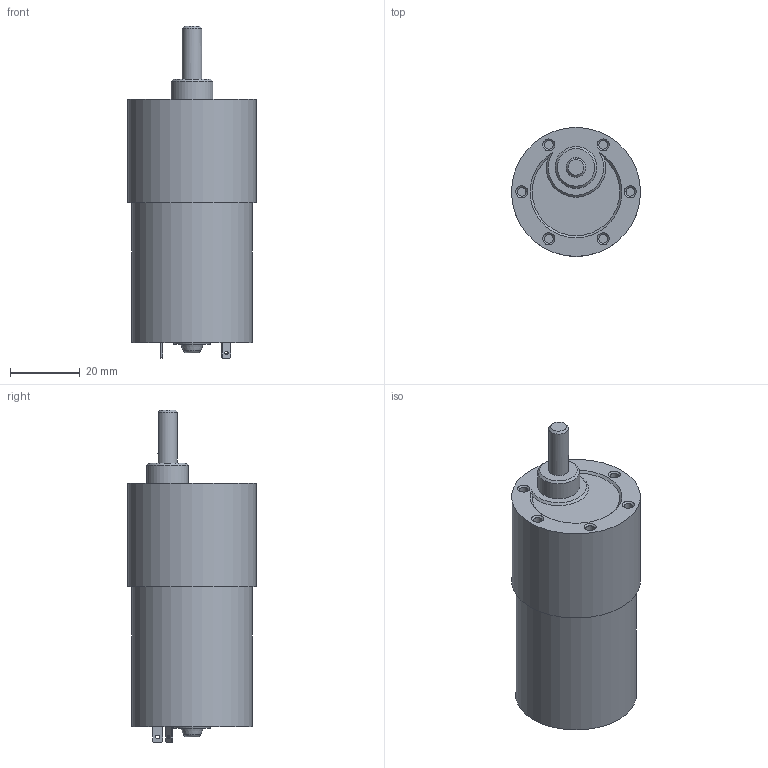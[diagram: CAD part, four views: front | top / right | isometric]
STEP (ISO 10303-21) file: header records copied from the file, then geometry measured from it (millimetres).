
FILE_DESCRIPTION( ( '' ), ' ' );
FILE_NAME( '/vol/tmp/translate-4832318640330939105/5ae2df511ced560fc658fb88.step', '2018-04-27T08:29:06', ( '' ), ( '' ), ' ', ' ', ' ' );
FILE_SCHEMA( ( 'AUTOMOTIVE_DESIGN { 1 0 10303 214 1 1 1 1 }' ) );
Length unit declared in the file: metre
Products named in the file (1): Part 1
Bounding box: 36.85 x 36.85 x 94.9 mm (x, y, z)
Volume: 68874.5 mm3; surface area: 10762.4 mm2
Topology: 1 solids, 1 shells, 57 faces, 114 edges, 74 vertices
Faces by surface type: plane 31, cylinder 13, cone 12, torus 1
Full cylindrical faces by diameter (mm): 1.1 x2, 2.45 x6, 5.662 x1, 11.95 x1, 33.58 x1, 34.45 x1, 36.85 x1
Entity records: 1817 total; most frequent: DIRECTION 243, CARTESIAN_POINT 229, ORIENTED_EDGE 172, AXIS2_PLACEMENT_3D 102, EDGE_LOOP 100, EDGE_CURVE 86, FACE_OUTER_BOUND 71, VERTEX_POINT 70
